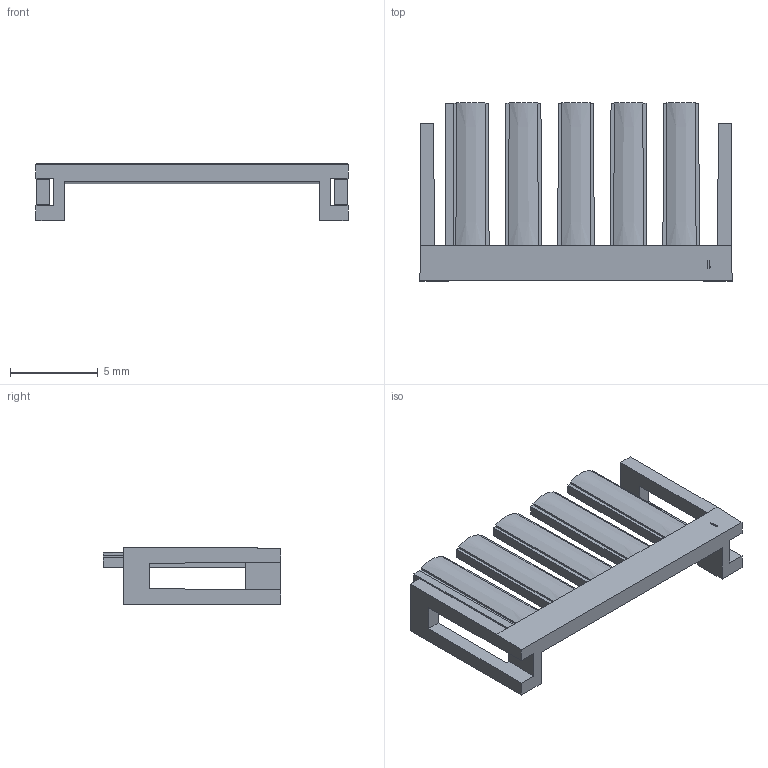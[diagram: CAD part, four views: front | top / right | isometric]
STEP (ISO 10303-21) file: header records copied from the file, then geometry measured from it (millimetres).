
FILE_DESCRIPTION((''),'2;1');
FILE_NAME('2064620500','2019-07-12T',('gga'),(''),'PRO/ENGINEER BY PARAMETRIC TECHNOLOGY CORPORATION, 2016010','PRO/ENGINEER BY PARAMETRIC TECHNOLOGY CORPORATION, 2016010','');
FILE_SCHEMA(('CONFIG_CONTROL_DESIGN'));
Length unit declared in the file: millimetre
Products named in the file (1): 2064620500
Bounding box: 17.8 x 10.15 x 3.27 mm (x, y, z)
Volume: 134.3 mm3; surface area: 478.8 mm2
Topology: 1 solids, 1 shells, 79 faces, 228 edges, 148 vertices
Faces by surface type: plane 74, cone 5
Entity records: 2588 total; most frequent: CARTESIAN_POINT 478, ORIENTED_EDGE 456, DIRECTION 388, EDGE_CURVE 228, VECTOR 208, LINE 208, VERTEX_POINT 148, AXIS2_PLACEMENT_3D 90
